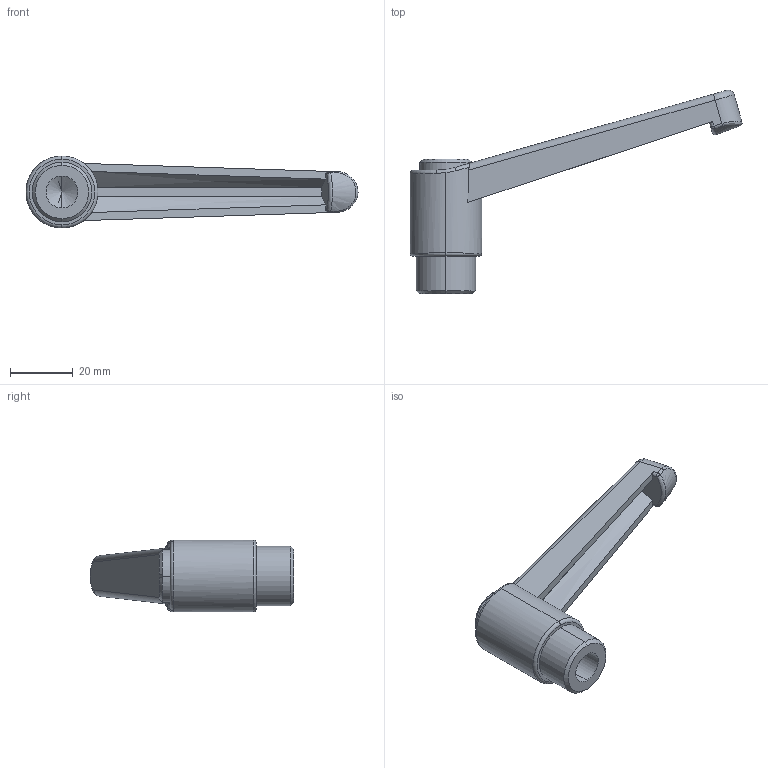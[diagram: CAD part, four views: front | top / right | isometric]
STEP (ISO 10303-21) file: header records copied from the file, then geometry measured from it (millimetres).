
FILE_DESCRIPTION (( 'STEP AP203' ), '1' );
FILE_NAME ('AS-405-92-M12.STEP', '2015-11-23T07:19:01', ( '' ), ( '' ), 'SwSTEP 2.0', 'SolidWorks 2014', '' );
FILE_SCHEMA (( 'CONFIG_CONTROL_DESIGN' ));
Length unit declared in the file: millimetre
Products named in the file (1): AS-405-92-M12
Bounding box: 106.06 x 65.02 x 23 mm (x, y, z)
Volume: 24588.9 mm3; surface area: 9461.7 mm2
Topology: 1 solids, 1 shells, 58 faces, 138 edges, 83 vertices
Faces by surface type: cylinder 17, plane 16, bspline 11, cone 6, torus 4, sphere 4
Entity records: 2183 total; most frequent: CARTESIAN_POINT 870, ORIENTED_EDGE 272, DIRECTION 245, EDGE_CURVE 136, AXIS2_PLACEMENT_3D 102, VERTEX_POINT 83, EDGE_LOOP 61, FACE_OUTER_BOUND 58
